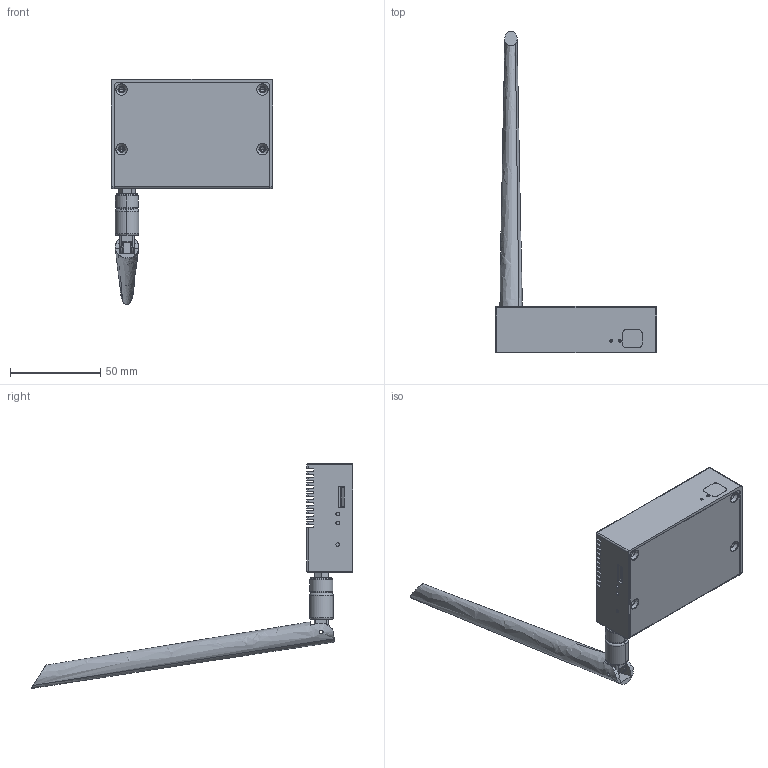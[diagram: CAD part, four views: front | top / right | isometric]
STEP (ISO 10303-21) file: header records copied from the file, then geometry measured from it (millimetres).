
FILE_DESCRIPTION (( 'STEP AP214' ), '1' );
FILE_NAME ('LubanCat 1 N.STEP', '2022-11-29T02:40:58', ( '' ), ( '' ), 'SwSTEP 2.0', 'SolidWorks 2021', '' );
FILE_SCHEMA (( 'AUTOMOTIVE_DESIGN' ));
Length unit declared in the file: millimetre
Products named in the file (22): 嫉儂釱赽; 72r3759_2007435-1; SD縐; 酗毞盄; LubanCat 1 N; SD縐釱mini; HR911105A; 聆泂LED; PCB; USB3.0+2.0橙晚釱赽 錨璃; 菁脯俋褲; 階脯俋褲; 毞盄錨璃1; 边三脚侧插侧按按键254gf; 边三脚侧插侧按按键6mm; User Library-header-2.54mm-10x2_User Library-1x2 TH Pitch 2_54mm; 綻俋敦諳; 毞盄釱赽; 毞盄; 毞盄嘐隅蹟佪; IRM-v838M3 綻俋泂え; TYPE-C 譫釱 16P 泂え 錨璃
Assembly tree (24 placements, depth 3):
  LubanCat 1 N
    PCB
    IRM-v838M3 綻俋泂え
    聆泂LED  x2
    HR911105A  x2
    72r3759_2007435-1
    SD縐釱mini
    边三脚侧插侧按按键254gf  x2
    User Library-header-2.54mm-10x2_User Library-1x2 TH Pitch 2_54mm
    階脯俋褲
    SD縐
    边三脚侧插侧按按键6mm
    菁脯俋褲
    TYPE-C 譫釱 16P 泂え 錨璃
    嫉儂釱赽
    USB3.0+2.0橙晚釱赽 錨璃
    酗毞盄
      毞盄
      毞盄釱赽
      毞盄錨璃1
      毞盄嘐隅蹟佪
    綻俋敦諳
Bounding box: 89.2 x 177.99 x 124.59 mm (x, y, z)
Volume: 84796 mm3; surface area: 78286.1 mm2
Topology: 42 solids, 122 shells, 6242 faces, 16740 edges, 10767 vertices
Faces by surface type: plane 4444, cylinder 1346, bspline 242, cone 120, torus 56, sphere 34
Entity records: 213817 total; most frequent: CARTESIAN_POINT 48804, ORIENTED_EDGE 30184, DIRECTION 25914, EDGE_CURVE 15192, VECTOR 11614, LINE 11614, VERTEX_POINT 9813, AXIS2_PLACEMENT_3D 7150
